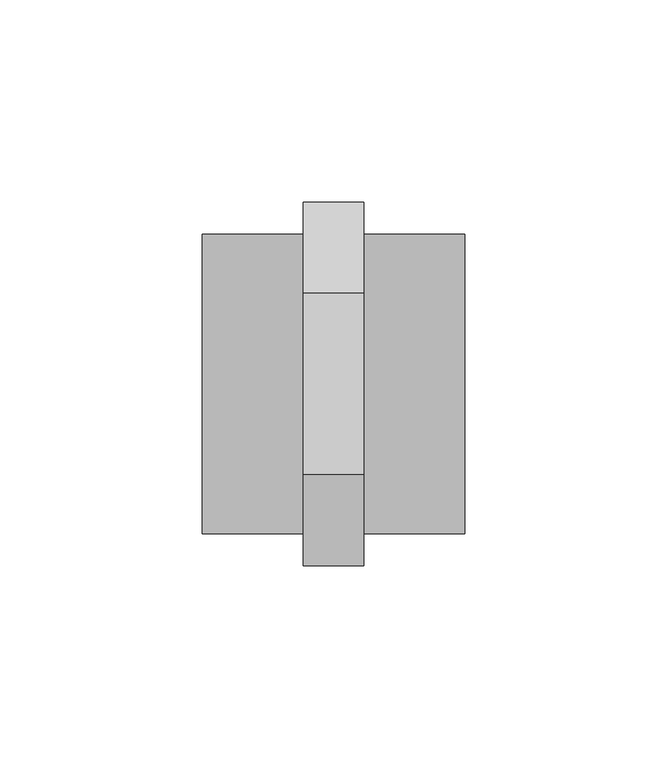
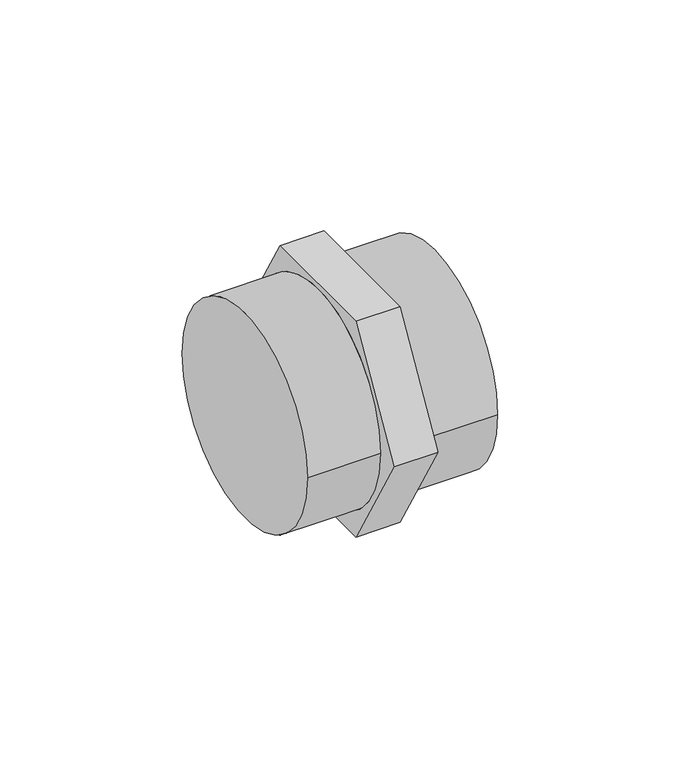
"""IFC4 building model written with IfcOpenShell, lengths in millimetres: pipe fitting geometry, 01011005 : Manchons."""

from ifc_helpers import new_model, si_unit, frame, origin, place, context, project, spatial, circle_curve, source, transform, mapped, element, save
from ifc_brep_helpers import plane_surface, cylinder_surface, advanced_brep


def pipe_fitting_a06ebd22(model_context):
    return source(origin(), model_context, "Body", "AdvancedBrep", [
        advanced_brep(
        [(7.5, -22.5166605, 39.0), (7.5, -45.033321, 0.0), (7.5, -22.5166605, -39.0), (7.5, 22.5166605, -39.0), (7.5, 45.033321, 0.0), (7.5, 22.5166605, 39.0), (7.5, -37.05, 0.0), (7.5, 37.05, 0.0), (-7.5, -22.5166605, 39.0), (-7.5, 22.5166605, 39.0), (-7.5, 45.033321, 0.0), (-7.5, 22.5166605, -39.0), (-7.5, -22.5166605, -39.0), (-7.5, -45.033321, 0.0), (-7.5, 37.05, 0.0), (-7.5, -37.05, 0.0), (-32.5, -37.05, 0.0), (-32.5, 37.05, 0.0), (32.5, -37.05, 0.0), (32.5, 37.05, 0.0)],
        [
            (0, 1),
            (1, 2),
            (2, 3),
            (3, 4),
            (4, 5),
            (5, 0),
            (6, 7, circle_curve(frame((7.5, 0.0, 0.0), z_axis=(-1.0, 0.0, 0.0), x_axis=(0.0, 1.0, 0.0)), 37.05)),
            (7, 6, circle_curve(frame((7.5, 0.0, 0.0), z_axis=(-1.0, 0.0, 0.0), x_axis=(0.0, 1.0, 0.0)), 37.05)),
            (8, 9),
            (9, 10),
            (10, 11),
            (11, 12),
            (12, 13),
            (13, 8),
            (14, 15, circle_curve(frame((-7.5, 0.0, 0.0), z_axis=(1.0, 0.0, 0.0), x_axis=(0.0, 1.0, 0.0)), 37.05)),
            (15, 14, circle_curve(frame((-7.5, 0.0, 0.0), z_axis=(1.0, 0.0, 0.0), x_axis=(0.0, 1.0, 0.0)), 37.05)),
            (0, 8),
            (13, 1),
            (12, 2),
            (11, 3),
            (10, 4),
            (9, 5),
            (16, 17, circle_curve(frame((-32.5, 0.0, 0.0), z_axis=(-1.0, 0.0, 0.0), x_axis=(0.0, 1.0, 0.0)), 37.05)),
            (17, 16, circle_curve(frame((-32.5, 0.0, 0.0), z_axis=(-1.0, 0.0, 0.0), x_axis=(0.0, 1.0, 0.0)), 37.05)),
            (18, 19, circle_curve(frame((32.5, 0.0, 0.0), z_axis=(1.0, 0.0, 0.0), x_axis=(0.0, 1.0, 0.0)), 37.05)),
            (19, 18, circle_curve(frame((32.5, 0.0, 0.0), z_axis=(1.0, 0.0, 0.0), x_axis=(0.0, 1.0, 0.0)), 37.05)),
            (16, 15),
            (14, 17),
            (19, 7),
            (6, 18),
        ],
        [
            plane_surface(frame((7.5, -22.5166605, 39.0), z_axis=(1.0, 0.0, 0.0), x_axis=(0.0, -0.5000000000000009, -0.8660254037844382))),
            plane_surface(frame((-7.5, -22.5166605, 39.0), z_axis=(-1.0, 0.0, 0.0), x_axis=(0.0, 0.5000000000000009, 0.8660254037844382))),
            plane_surface(frame((7.5, -22.5166605, 39.0), z_axis=(0.0, -0.8660254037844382, 0.5000000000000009), x_axis=(-1.0, 0.0, 0.0))),
            plane_surface(frame((7.5, -45.033321, 0.0), z_axis=(0.0, -0.8660254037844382, -0.500000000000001), x_axis=(-1.0, 0.0, 0.0))),
            plane_surface(frame((7.5, -22.5166605, -39.0), z_axis=(0.0, 0.0, -1.0), x_axis=(-1.0, 0.0, 0.0))),
            plane_surface(frame((7.5, 22.5166605, -39.0), z_axis=(0.0, 0.8660254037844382, -0.5000000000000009), x_axis=(-1.0, 0.0, 0.0))),
            plane_surface(frame((7.5, 45.033321, 0.0), z_axis=(0.0, 0.8660254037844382, 0.500000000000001), x_axis=(-1.0, 0.0, 0.0))),
            plane_surface(frame((7.5, 22.5166605, 39.0), z_axis=(0.0, 0.0, 1.0), x_axis=(-1.0, 0.0, 0.0))),
            plane_surface(frame((-32.5, 0.0, 0.0), z_axis=(-1.0, 0.0, 0.0), x_axis=(0.0, 0.0, 1.0))),
            plane_surface(frame((32.5, 0.0, 0.0), z_axis=(1.0, 0.0, 0.0), x_axis=(0.0, 0.0, 1.0))),
            cylinder_surface(frame((-32.5, 0.0, 0.0), z_axis=(-1.0, 0.0, 0.0), x_axis=(0.0, 1.0, 0.0)), 37.05),
        ],
        [
            (0, [[1, 2, 3, 4, 5, 6], [7, 8]]),
            (1, [[9, 10, 11, 12, 13, 14], [15, 16]]),
            (2, [[-1, 17, -14, 18]]),
            (3, [[-2, -18, -13, 19]]),
            (4, [[-3, -19, -12, 20]]),
            (5, [[-4, -20, -11, 21]]),
            (6, [[-5, -21, -10, 22]]),
            (7, [[-6, -22, -9, -17]]),
            (8, [[23, 24]]),
            (9, [[25, 26]]),
            (10, [[-23, 27, -15, 28]]),
            (10, [[-26, 29, -7, 30]]),
            (10, [[-24, -28, -16, -27]]),
            (10, [[-25, -30, -8, -29]]),
        ],
    ),
    ])


if __name__ == "__main__":
    model = new_model("IFC4")
    model_context = context("Model", 3, world=origin())
    ifc_project = project(units=[si_unit("LENGTHUNIT", "METRE", prefix="MILLI")], contexts=[model_context])
    site = spatial("IfcSite", under=ifc_project)
    building = spatial("IfcBuilding", under=site)
    placement = place(None, origin())
    pipe_fitting_shape = pipe_fitting_a06ebd22(model_context)
    element("IfcPipeFitting", 1, ObjectType="01011005 : Manchons", at=placement, inside=building, context=model_context, shape_type="MappedRepresentation", body=[
        mapped(pipe_fitting_shape, transform((0.0, 0.0, 0.0), x_axis=(1.0, 0.0, 0.0), y_axis=(0.0, 1.0, 0.0), z_axis=(0.0, 0.0, 1.0))),
    ])
    save(model, "model.ifc")
